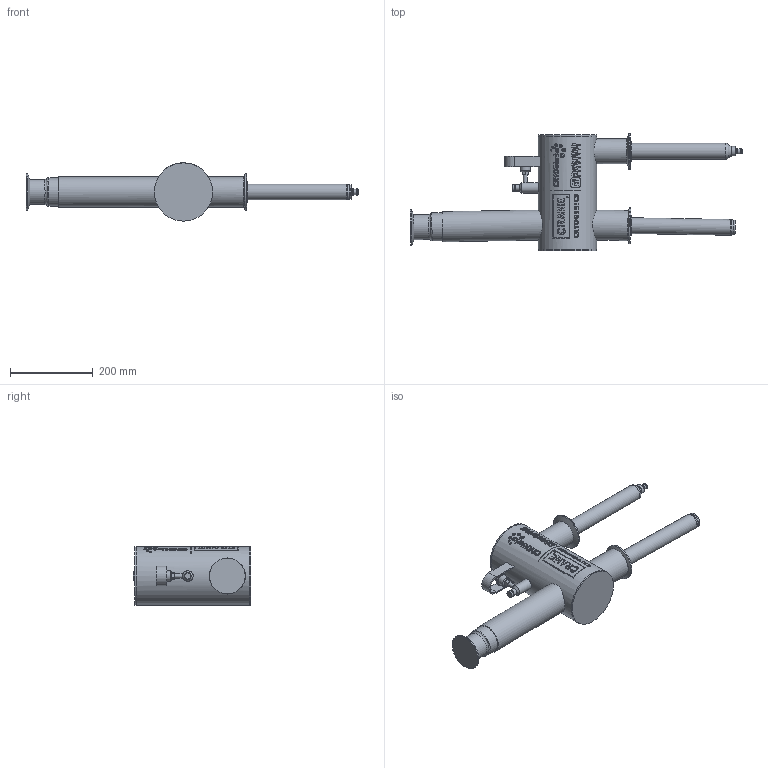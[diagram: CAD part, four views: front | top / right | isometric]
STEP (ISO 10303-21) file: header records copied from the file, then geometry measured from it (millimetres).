
FILE_DESCRIPTION (( 'STEP AP203' ), '1' );
FILE_NAME ('CA00140-TF.step', '2025-12-17T20:01:17', ( '' ), ( '' ), 'SwSTEP 2.0', 'SolidWorks 2023', '' );
FILE_SCHEMA (( 'CONFIG_CONTROL_DESIGN' ));
Length unit declared in the file: inch
Products named in the file (1): CA00140-TF
Bounding box: 804.85 x 284.95 x 141.3 mm (x, y, z)
Volume: 6888796.7 mm3; surface area: 370204.6 mm2
Topology: 1 solids, 2 shells, 692 faces, 1724 edges, 1141 vertices
Faces by surface type: plane 420, cylinder 186, bspline 53, torus 25, cone 8
Full cylindrical faces by diameter (mm): 1.494 x1, 1.636 x1, 1.778 x1, 1.935 x4, 2.039 x1, 2.302 x1, 2.967 x1, 3.071 x1, 3.409 x1, 3.632 x1, 3.807 x1, 4.009 x1, 4.573 x1, 6.177 x1, 7.63 x1, 7.722 x1, 9.232 x1, 10.16 x1, 10.236 x2, 10.287 x1, 10.749 x1, 12.7 x1, 15.748 x2, 23.012 x1, 24.638 x1, 25.4 x1, 26.873 x1, 30.988 x1, 34.95 x1, 38.227 x2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
Entity records: 28679 total; most frequent: CARTESIAN_POINT 13818, ORIENTED_EDGE 3218, DIRECTION 2610, EDGE_CURVE 1609, VERTEX_POINT 1119, AXIS2_PLACEMENT_3D 899, EDGE_LOOP 892, VECTOR 812
